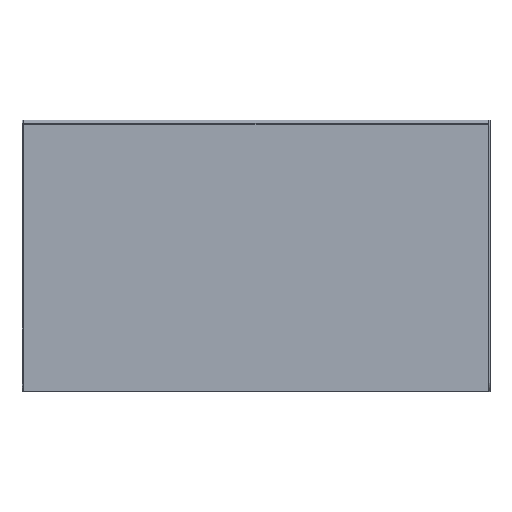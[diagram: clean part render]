
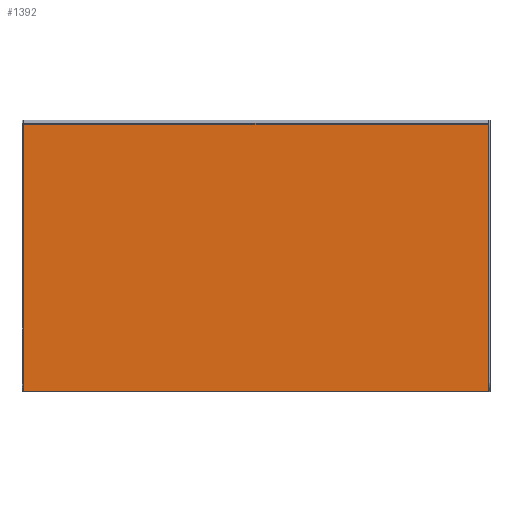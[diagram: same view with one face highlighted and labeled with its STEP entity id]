
A CAD part, front view. The second image highlights one B-rep face of the part: STEP entity #1392.
In plain terms, the highlighted planar face has unit normal (0, -1, 0).
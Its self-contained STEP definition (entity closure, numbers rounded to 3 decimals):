
#92 = CARTESIAN_POINT ( 'NONE',  ( 597., -15., 347. ) ) ;
#109 = EDGE_CURVE ( 'NONE', #1573, #426, #223, .T. ) ;
#154 = VECTOR ( 'NONE', #1151, 1000. ) ;
#223 = LINE ( 'NONE', #884, #297 ) ;
#226 = DIRECTION ( 'NONE',  ( 0., 0., 1. ) ) ;
#291 = CARTESIAN_POINT ( 'NONE',  ( -597., -15., 347. ) ) ;
#297 = VECTOR ( 'NONE', #485, 1000. ) ;
#310 = EDGE_CURVE ( 'NONE', #1058, #1573, #365, .T. ) ;
#334 = LINE ( 'NONE', #850, #956 ) ;
#365 = LINE ( 'NONE', #732, #154 ) ;
#426 = VERTEX_POINT ( 'NONE', #665 ) ;
#442 = ORIENTED_EDGE ( 'NONE', *, *, #109, .F. ) ;
#485 = DIRECTION ( 'NONE',  ( -1., 0., 0. ) ) ;
#520 = CARTESIAN_POINT ( 'NONE',  ( 0., -15., 0. ) ) ;
#576 = DIRECTION ( 'NONE',  ( 0., -1., 0. ) ) ;
#665 = CARTESIAN_POINT ( 'NONE',  ( -597., -15., -347. ) ) ;
#732 = CARTESIAN_POINT ( 'NONE',  ( 597., -15., 347. ) ) ;
#738 = ORIENTED_EDGE ( 'NONE', *, *, #1575, .F. ) ;
#850 = CARTESIAN_POINT ( 'NONE',  ( -597., -15., 347. ) ) ;
#884 = CARTESIAN_POINT ( 'NONE',  ( -597., -15., -347. ) ) ;
#956 = VECTOR ( 'NONE', #226, 1000. ) ;
#1007 = DIRECTION ( 'NONE',  ( 1., 0., 0. ) ) ;
#1028 = LINE ( 'NONE', #1680, #1611 ) ;
#1035 = EDGE_CURVE ( 'NONE', #1254, #1058, #1028, .T. ) ;
#1058 = VERTEX_POINT ( 'NONE', #92 ) ;
#1105 = EDGE_LOOP ( 'NONE', ( #1503, #1214, #738, #442 ) ) ;
#1151 = DIRECTION ( 'NONE',  ( 0., 0., -1. ) ) ;
#1214 = ORIENTED_EDGE ( 'NONE', *, *, #1035, .F. ) ;
#1219 = DIRECTION ( 'NONE',  ( 0., 0., -1. ) ) ;
#1254 = VERTEX_POINT ( 'NONE', #291 ) ;
#1288 = AXIS2_PLACEMENT_3D ( 'NONE', #520, #576, #1219 ) ;
#1303 = FACE_OUTER_BOUND ( 'NONE', #1105, .T. ) ;
#1392 = ADVANCED_FACE ( 'NONE', ( #1303 ), #1704, .T. ) ;
#1503 = ORIENTED_EDGE ( 'NONE', *, *, #310, .F. ) ;
#1504 = CARTESIAN_POINT ( 'NONE',  ( 597., -15., -347. ) ) ;
#1573 = VERTEX_POINT ( 'NONE', #1504 ) ;
#1575 = EDGE_CURVE ( 'NONE', #426, #1254, #334, .T. ) ;
#1611 = VECTOR ( 'NONE', #1007, 1000. ) ;
#1680 = CARTESIAN_POINT ( 'NONE',  ( -597., -15., 347. ) ) ;
#1704 = PLANE ( 'NONE',  #1288 ) ;
